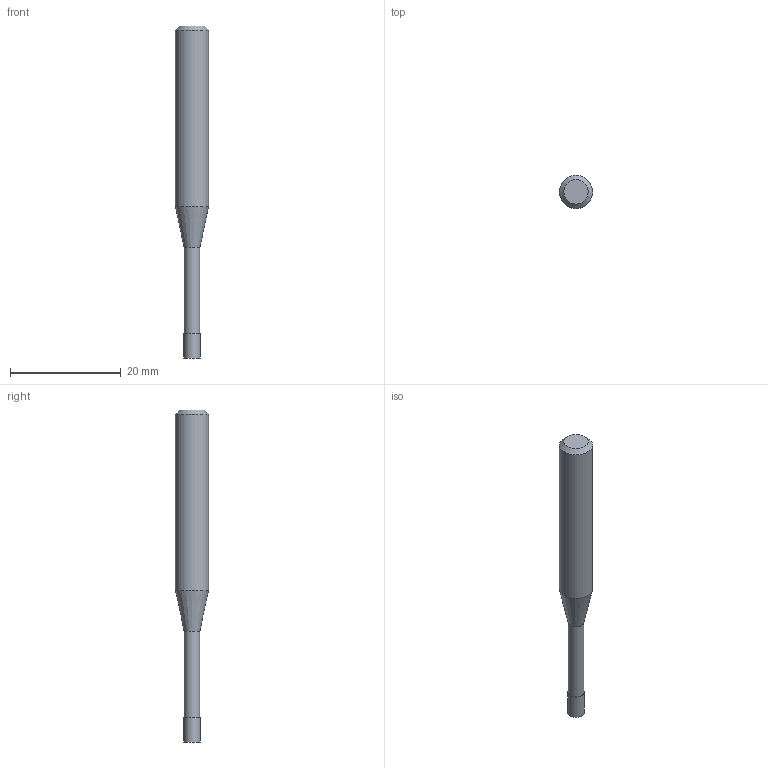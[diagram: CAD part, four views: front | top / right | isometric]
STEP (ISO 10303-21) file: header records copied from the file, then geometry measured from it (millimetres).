
FILE_DESCRIPTION((''),'2;1');
FILE_NAME('C:\Users\nsx150\AppData\Local\Temp\Mastercam 2021\17T8Q8S9EB\TEMP.step','2021-04-21T16:16:04',(''),(''),'STEP Write','Mastercam 2021 ... CNC Software, Inc.','');
FILE_SCHEMA(('AUTOMOTIVE_DESIGN'));
Length unit declared in the file: millimetre
Products named in the file (1): None
Bounding box: 6 x 6 x 60 mm (x, y, z)
Volume: 1165.4 mm3; surface area: 939.9 mm2
Topology: 2 solids, 2 shells, 9 faces, 12 edges, 7 vertices
Faces by surface type: plane 4, cylinder 3, cone 2
Full cylindrical faces by diameter (mm): 2.85 x1, 3 x1, 6 x1
Entity records: 211 total; most frequent: DIRECTION 36, CARTESIAN_POINT 25, AXIS2_PLACEMENT_3D 18, ORIENTED_EDGE 14, EDGE_LOOP 14, STYLED_ITEM 12, ADVANCED_FACE 9, FACE_BOUND 8
